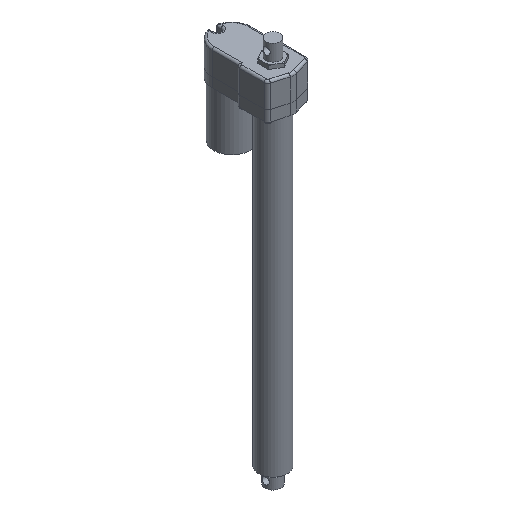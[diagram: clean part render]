
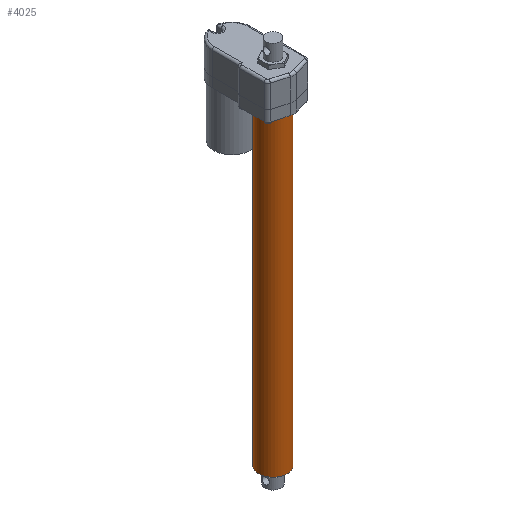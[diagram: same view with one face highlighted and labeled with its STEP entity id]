
A CAD part, isometric view. The second image highlights one B-rep face of the part: STEP entity #4025.
In plain terms, the highlighted cylindrical face has radius 25.5 mm (diameter 51 mm), a full revolution.
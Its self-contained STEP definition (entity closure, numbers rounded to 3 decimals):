
#50 = CARTESIAN_POINT ( 'NONE',  ( 0., 0., 0. ) ) ;
#67 = DIRECTION ( 'NONE',  ( 0., 0., -1. ) ) ;
#68 = DIRECTION ( 'NONE',  ( 1., 0., 0. ) ) ;
#1612 = AXIS2_PLACEMENT_3D ( 'NONE', #2101, #2102, #2071 ) ;
#2071 = DIRECTION ( 'NONE',  ( 1., 0., 0. ) ) ;
#2101 = CARTESIAN_POINT ( 'NONE',  ( 0., 0., -72.125 ) ) ;
#2102 = DIRECTION ( 'NONE',  ( 0., 0., 1. ) ) ;
#2371 = VERTEX_POINT ( 'NONE', #2372 ) ;
#2372 = CARTESIAN_POINT ( 'NONE',  ( 25.5, 0., 566.1 ) ) ;
#2395 = VERTEX_POINT ( 'NONE', #2396 ) ;
#2396 = CARTESIAN_POINT ( 'NONE',  ( 25.5, 0., 0. ) ) ;
#2817 = EDGE_CURVE ( 'NONE', #2371, #2371, #4572, .T. ) ;
#2881 = EDGE_CURVE ( 'NONE', #2395, #2395, #4661, .T. ) ;
#3111 = AXIS2_PLACEMENT_3D ( 'NONE', #50, #67, #68 ) ;
#3150 = CARTESIAN_POINT ( 'NONE',  ( 0., 0., 566.1 ) ) ;
#3250 = DIRECTION ( 'NONE',  ( 1., 0., 0. ) ) ;
#3267 = DIRECTION ( 'NONE',  ( 0., 0., 1. ) ) ;
#3729 = AXIS2_PLACEMENT_3D ( 'NONE', #3150, #3267, #3250 ) ;
#3858 = ORIENTED_EDGE ( 'NONE', *, *, #2881, .F. ) ;
#3867 = ORIENTED_EDGE ( 'NONE', *, *, #2817, .F. ) ;
#3872 = EDGE_LOOP ( 'NONE', ( #3858 ) ) ;
#3887 = EDGE_LOOP ( 'NONE', ( #3867 ) ) ;
#4025 = ADVANCED_FACE ( 'NONE', ( #5134, #5133 ), #5128, .T. ) ;
#4572 = CIRCLE ( 'NONE', #3729, 25.5 ) ;
#4661 = CIRCLE ( 'NONE', #3111, 25.5 ) ;
#5128 = CYLINDRICAL_SURFACE ( 'NONE', #1612, 25.5 ) ;
#5133 = FACE_OUTER_BOUND ( 'NONE', #3887, .T. ) ;
#5134 = FACE_OUTER_BOUND ( 'NONE', #3872, .T. ) ;
